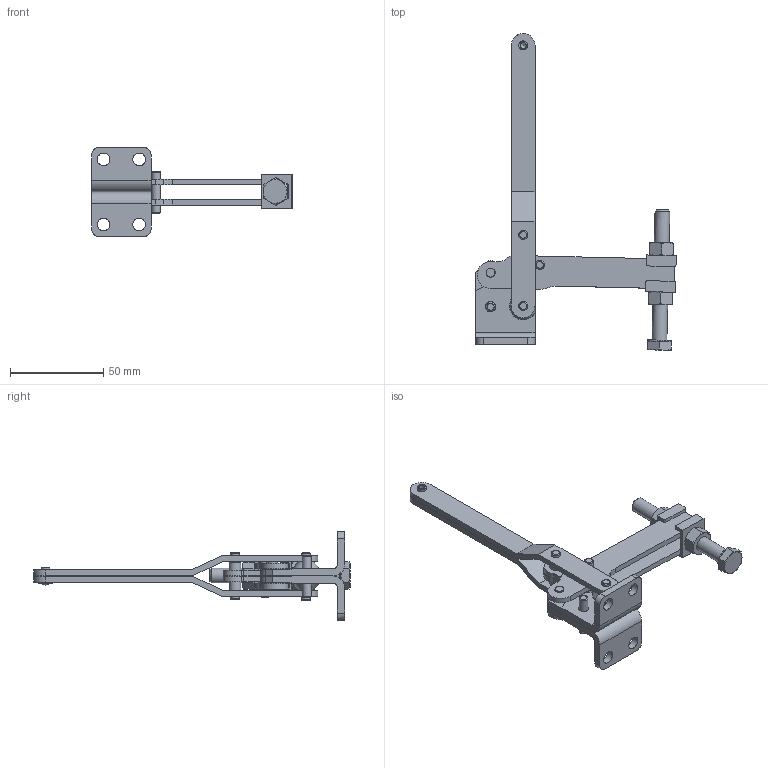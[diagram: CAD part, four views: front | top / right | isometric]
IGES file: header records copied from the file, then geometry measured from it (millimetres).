
Global section: file name: V-200; native system: Autodesk RealDWG; preprocessor: Autodesk Translation Framework DWG producer (atf_dwg_producer); author: rtaylor; organization: unknown; date: 20150909.143929; units: inch
Bounding box: 107.45 x 169.81 x 47.65 mm (x, y, z)
Volume: 43802.5 mm3; surface area: 35881.6 mm2
Topology: 20 solids, 20 shells, 329 faces, 804 edges, 525 vertices
Faces by surface type: bspline 329
